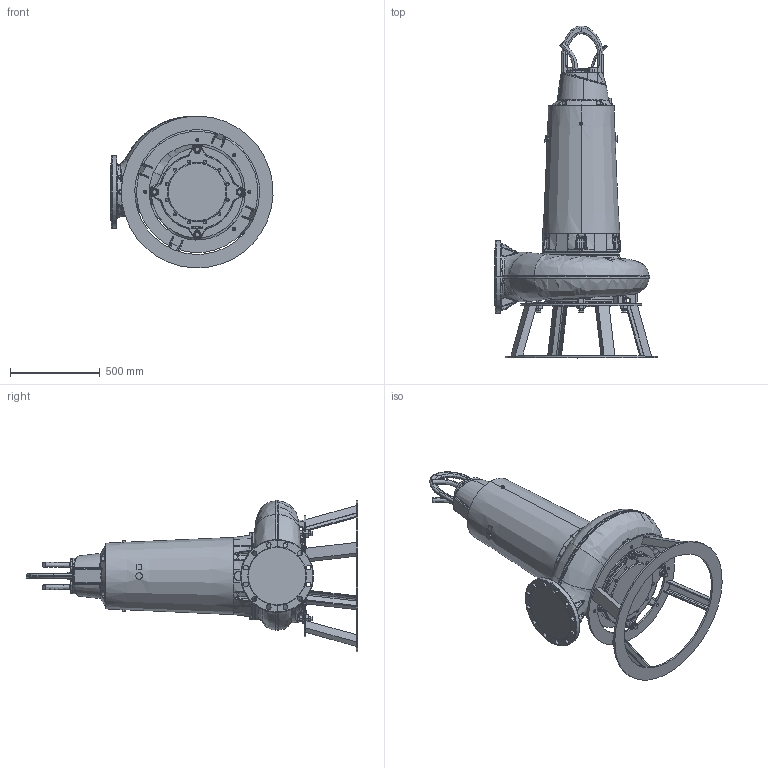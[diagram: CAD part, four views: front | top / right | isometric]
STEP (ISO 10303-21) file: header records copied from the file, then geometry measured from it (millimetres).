
FILE_DESCRIPTION (( 'STEP AP214' ), '1' );
FILE_NAME ('PE4_XFP250J-CB2_WET T_B_NG2.STEP', '2017-01-18T10:10:41', ( '' ), ( '' ), 'SwSTEP 2.0', 'SolidWorks 2017', '' );
FILE_SCHEMA (( 'AUTOMOTIVE_DESIGN' ));
Length unit declared in the file: millimetre
Products named in the file (1): PE4_XFP250J-CB2_WET T_B_NG2
Bounding box: 902.1 x 1847.4 x 844.37 mm (x, y, z)
Volume: 223121165 mm3; surface area: 4127580 mm2
Topology: 3 solids, 11 shells, 2504 faces, 6370 edges, 3875 vertices
Faces by surface type: bspline 719, plane 703, cylinder 585, cone 312, torus 159, sphere 26
Entity records: 170302 total; most frequent: CARTESIAN_POINT 88823, ORIENTED_EDGE 12592, DIRECTION 9475, EDGE_CURVE 6296, VERTEX_POINT 3875, AXIS2_PLACEMENT_3D 3726, EDGE_LOOP 2663, UNCERTAINTY_MEASURE_WITH_UNIT 2509
